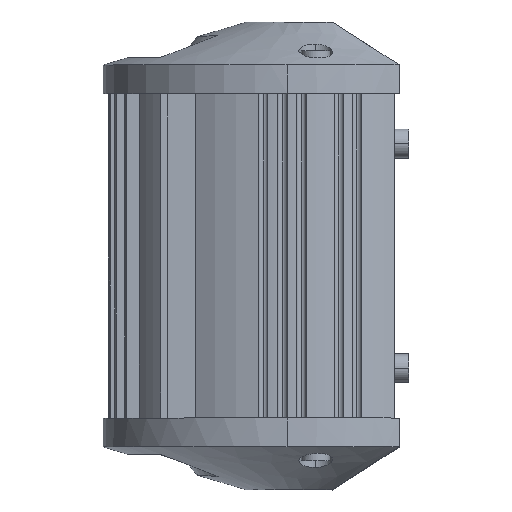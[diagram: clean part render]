
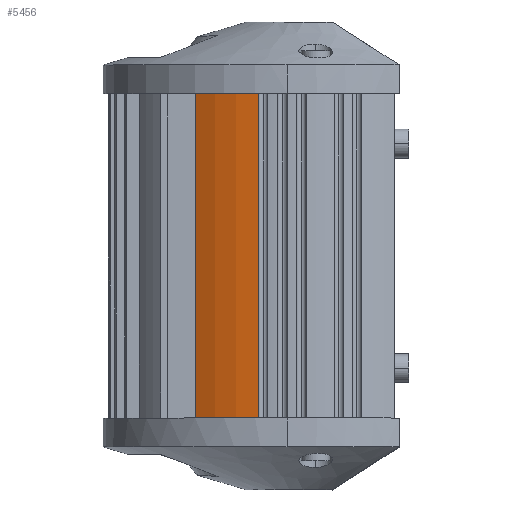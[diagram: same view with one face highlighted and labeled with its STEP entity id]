
A CAD part, top view. The second image highlights one B-rep face of the part: STEP entity #5456.
In plain terms, the highlighted cylindrical face has radius 37.5 mm (diameter 75 mm), a partial arc.
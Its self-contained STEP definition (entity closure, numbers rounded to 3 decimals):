
#56 = DIRECTION ( 'NONE',  ( 0., -1., 0. ) ) ;
#955 = AXIS2_PLACEMENT_3D ( 'NONE', #7351, #12670, #11409 ) ;
#1149 = CARTESIAN_POINT ( 'NONE',  ( 0., -34., 0. ) ) ;
#2275 = EDGE_CURVE ( 'NONE', #6028, #11993, #11182, .T. ) ;
#2630 = VECTOR ( 'NONE', #56, 1000. ) ;
#3257 = CARTESIAN_POINT ( 'NONE',  ( 0., 40., 0. ) ) ;
#3427 = VERTEX_POINT ( 'NONE', #16550 ) ;
#4095 = CARTESIAN_POINT ( 'NONE',  ( -5.976, 40., 37.021 ) ) ;
#4192 = CARTESIAN_POINT ( 'NONE',  ( -19.28, 40., 32.164 ) ) ;
#4599 = ORIENTED_EDGE ( 'NONE', *, *, #10039, .F. ) ;
#4627 = FACE_OUTER_BOUND ( 'NONE', #7822, .T. ) ;
#4686 = ORIENTED_EDGE ( 'NONE', *, *, #2275, .T. ) ;
#5105 = CARTESIAN_POINT ( 'NONE',  ( -19.28, 34., 32.164 ) ) ;
#5456 = ADVANCED_FACE ( 'NONE', ( #4627 ), #12502, .T. ) ;
#6028 = VERTEX_POINT ( 'NONE', #5105 ) ;
#7351 = CARTESIAN_POINT ( 'NONE',  ( 0., 34., 0. ) ) ;
#7822 = EDGE_LOOP ( 'NONE', ( #9300, #4599, #8802, #4686 ) ) ;
#8567 = CARTESIAN_POINT ( 'NONE',  ( -19.28, -34., 32.164 ) ) ;
#8802 = ORIENTED_EDGE ( 'NONE', *, *, #9026, .F. ) ;
#8813 = DIRECTION ( 'NONE',  ( 0., -1., 0. ) ) ;
#8983 = AXIS2_PLACEMENT_3D ( 'NONE', #3257, #8813, #11484 ) ;
#9026 = EDGE_CURVE ( 'NONE', #6028, #3427, #14171, .T. ) ;
#9055 = CARTESIAN_POINT ( 'NONE',  ( -5.976, -34., 37.021 ) ) ;
#9300 = ORIENTED_EDGE ( 'NONE', *, *, #14659, .T. ) ;
#10039 = EDGE_CURVE ( 'NONE', #3427, #15194, #10731, .T. ) ;
#10331 = AXIS2_PLACEMENT_3D ( 'NONE', #1149, #16174, #16234 ) ;
#10731 = LINE ( 'NONE', #4095, #2630 ) ;
#11182 = LINE ( 'NONE', #4192, #15378 ) ;
#11409 = DIRECTION ( 'NONE',  ( 0., 0., 1. ) ) ;
#11484 = DIRECTION ( 'NONE',  ( 0., 0., -1. ) ) ;
#11993 = VERTEX_POINT ( 'NONE', #8567 ) ;
#12342 = DIRECTION ( 'NONE',  ( 0., -1., 0. ) ) ;
#12502 = CYLINDRICAL_SURFACE ( 'NONE', #8983, 37.5 ) ;
#12670 = DIRECTION ( 'NONE',  ( 0., 1., 0. ) ) ;
#14171 = CIRCLE ( 'NONE', #955, 37.5 ) ;
#14659 = EDGE_CURVE ( 'NONE', #11993, #15194, #15039, .T. ) ;
#15039 = CIRCLE ( 'NONE', #10331, 37.5 ) ;
#15194 = VERTEX_POINT ( 'NONE', #9055 ) ;
#15378 = VECTOR ( 'NONE', #12342, 1000. ) ;
#16174 = DIRECTION ( 'NONE',  ( 0., 1., 0. ) ) ;
#16234 = DIRECTION ( 'NONE',  ( 0., 0., 1. ) ) ;
#16550 = CARTESIAN_POINT ( 'NONE',  ( -5.976, 34., 37.021 ) ) ;
